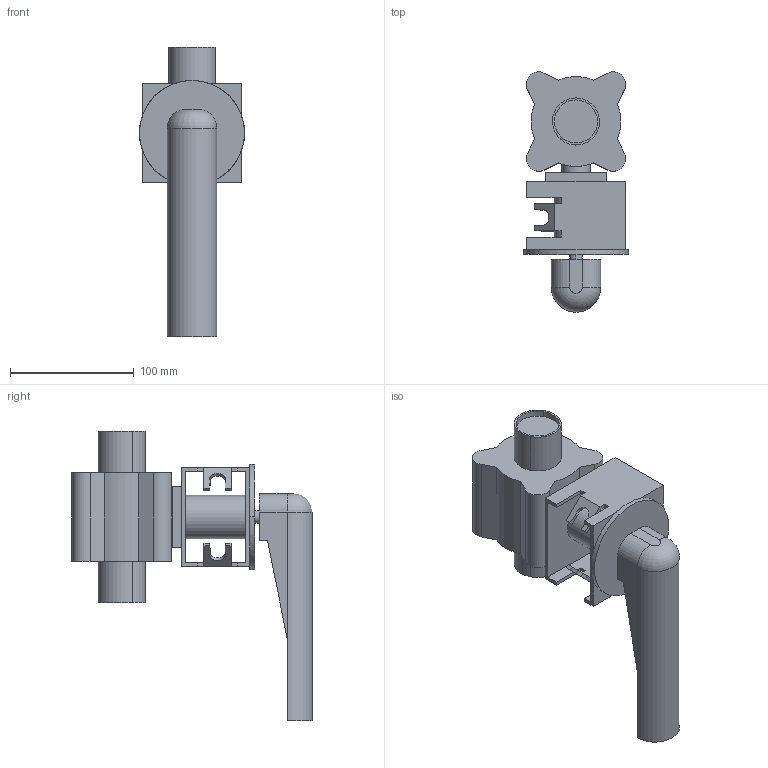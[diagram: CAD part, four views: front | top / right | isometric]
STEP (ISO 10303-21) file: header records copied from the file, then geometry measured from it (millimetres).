
FILE_DESCRIPTION(('Creo Elements/Direct Modeling STEP Export'),'2;1');
FILE_NAME('BLV1-1.5T-HL-12S.stp','2019-05-10T 7:59:46',(''),(''),'Creo Elements/Direct Modeling STEP processor for AP214 (Solid Model)','Creo Elements/Direct Modeling 19.0F 14-Feb-2017 (C) Parametric Technology GmbH','');
FILE_SCHEMA(('AUTOMOTIVE_DESIGN { 1 0 10303 214 1 1 1 1 }'));
Length unit declared in the file: millimetre
Products named in the file (2): BLV1-1.5T-HL-12S
Assembly tree (1 placements, depth 2):
  BLV1-1.5T-HL-12S
    BLV1-1.5T-HL-12S
Bounding box: 85 x 194.24 x 234.5 mm (x, y, z)
Volume: 782311.7 mm3; surface area: 114299.8 mm2
Topology: 1 solids, 1 shells, 100 faces, 258 edges, 168 vertices
Faces by surface type: plane 70, cylinder 29, torus 1
Entity records: 2967 total; most frequent: CARTESIAN_POINT 559, ORIENTED_EDGE 516, DIRECTION 457, EDGE_CURVE 258, VECTOR 183, LINE 183, VERTEX_POINT 168, AXIS2_PLACEMENT_3D 137
